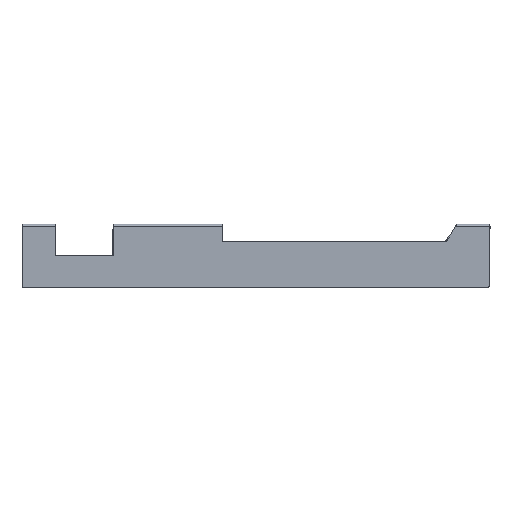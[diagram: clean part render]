
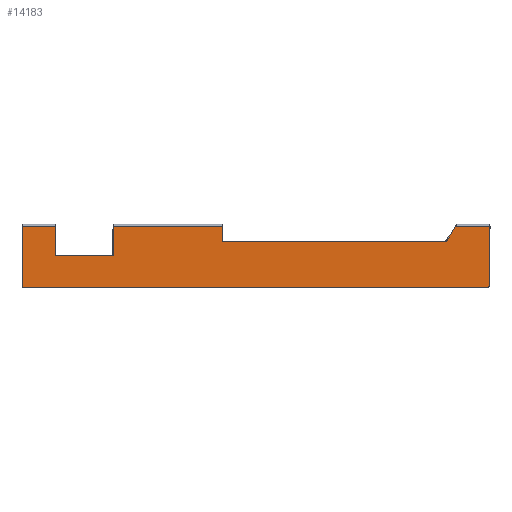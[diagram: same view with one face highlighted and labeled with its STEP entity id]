
A CAD part, left-side view. The second image highlights one B-rep face of the part: STEP entity #14183.
In plain terms, the highlighted planar face has unit normal (-1, 0, 0).
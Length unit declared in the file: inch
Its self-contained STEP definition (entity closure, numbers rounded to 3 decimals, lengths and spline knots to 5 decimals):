
#337 = CARTESIAN_POINT ( 'NONE',  ( -5.95, 29.6, 2.9 ) ) ;
#411 = CARTESIAN_POINT ( 'NONE',  ( -5.95, 2.8, 2.96 ) ) ;
#893 = ORIENTED_EDGE ( 'NONE', *, *, #18924, .T. ) ;
#914 = CARTESIAN_POINT ( 'NONE',  ( -5.95, 16.84, 2.9 ) ) ;
#939 = ORIENTED_EDGE ( 'NONE', *, *, #2724, .T. ) ;
#961 = EDGE_CURVE ( 'NONE', #16135, #4200, #19131, .T. ) ;
#1057 = DIRECTION ( 'NONE',  ( 1., 0., 0. ) ) ;
#1084 = DIRECTION ( 'NONE',  ( 0., -1., 0. ) ) ;
#1267 = CARTESIAN_POINT ( 'NONE',  ( -5.95, 29.6, 3.8653 ) ) ;
#1278 = DIRECTION ( 'NONE',  ( 0., 1., 0. ) ) ;
#1740 = VERTEX_POINT ( 'NONE', #18730 ) ;
#1763 = CIRCLE ( 'NONE', #9722, 0.125 ) ;
#1785 = DIRECTION ( 'NONE',  ( 0., 0.518, -0.855 ) ) ;
#1959 = CARTESIAN_POINT ( 'NONE',  ( -5.95, 0., 3.8653 ) ) ;
#2092 = VERTEX_POINT ( 'NONE', #9407 ) ;
#2458 = EDGE_CURVE ( 'NONE', #14696, #15120, #12641, .T. ) ;
#2582 = EDGE_CURVE ( 'NONE', #6665, #14501, #19598, .T. ) ;
#2637 = LINE ( 'NONE', #13466, #13736 ) ;
#2679 = CARTESIAN_POINT ( 'NONE',  ( -5.95, 23.8, 0. ) ) ;
#2724 = EDGE_CURVE ( 'NONE', #20918, #14728, #8135, .T. ) ;
#2876 = CARTESIAN_POINT ( 'NONE',  ( -5.95, 27.5, 2.125 ) ) ;
#3316 = CARTESIAN_POINT ( 'NONE',  ( -5.95, 2.8, 2.9 ) ) ;
#3844 = CIRCLE ( 'NONE', #5183, 0.06 ) ;
#4127 = VECTOR ( 'NONE', #11602, 39.37008 ) ;
#4135 = LINE ( 'NONE', #19500, #12579 ) ;
#4140 = DIRECTION ( 'NONE',  ( 0., 0., 1. ) ) ;
#4200 = VERTEX_POINT ( 'NONE', #1959 ) ;
#4222 = ORIENTED_EDGE ( 'NONE', *, *, #16245, .T. ) ;
#4325 = CARTESIAN_POINT ( 'NONE',  ( -5.95, 23.925, 2. ) ) ;
#4581 = CARTESIAN_POINT ( 'NONE',  ( -5.95, 29.6, 0. ) ) ;
#4683 = DIRECTION ( 'NONE',  ( 1., 0., 0. ) ) ;
#4788 = VERTEX_POINT ( 'NONE', #10575 ) ;
#4933 = CIRCLE ( 'NONE', #16862, 0.1875 ) ;
#4967 = ORIENTED_EDGE ( 'NONE', *, *, #14666, .T. ) ;
#5092 = CARTESIAN_POINT ( 'NONE',  ( -5.95, 16.9, 0. ) ) ;
#5183 = AXIS2_PLACEMENT_3D ( 'NONE', #411, #17524, #14099 ) ;
#5341 = CARTESIAN_POINT ( 'NONE',  ( -5.95, 23.8, 2.125 ) ) ;
#5449 = LINE ( 'NONE', #6250, #12764 ) ;
#5486 = VERTEX_POINT ( 'NONE', #18117 ) ;
#5585 = CARTESIAN_POINT ( 'NONE',  ( -5.95, 27.5, 3.8653 ) ) ;
#5960 = DIRECTION ( 'NONE',  ( 1., 0., 0. ) ) ;
#6045 = DIRECTION ( 'NONE',  ( 1., 0., 0. ) ) ;
#6136 = DIRECTION ( 'NONE',  ( 0., -1., 0. ) ) ;
#6250 = CARTESIAN_POINT ( 'NONE',  ( -5.95, 29.6, 3.8653 ) ) ;
#6369 = DIRECTION ( 'NONE',  ( 0., 0., -1. ) ) ;
#6665 = VERTEX_POINT ( 'NONE', #8666 ) ;
#6800 = ORIENTED_EDGE ( 'NONE', *, *, #18323, .F. ) ;
#7107 = DIRECTION ( 'NONE',  ( 0., 0., -1. ) ) ;
#7235 = LINE ( 'NONE', #9219, #20235 ) ;
#8135 = CIRCLE ( 'NONE', #18534, 0.125 ) ;
#8181 = EDGE_CURVE ( 'NONE', #16690, #6665, #7235, .T. ) ;
#8227 = VERTEX_POINT ( 'NONE', #2876 ) ;
#8346 = VERTEX_POINT ( 'NONE', #15007 ) ;
#8562 = AXIS2_PLACEMENT_3D ( 'NONE', #4581, #6045, #9354 ) ;
#8666 = CARTESIAN_POINT ( 'NONE',  ( -5.95, 29.6, 3.8653 ) ) ;
#8685 = EDGE_CURVE ( 'NONE', #5486, #8346, #4933, .T. ) ;
#8816 = EDGE_CURVE ( 'NONE', #2092, #1740, #5449, .T. ) ;
#8865 = FACE_OUTER_BOUND ( 'NONE', #10768, .T. ) ;
#9219 = CARTESIAN_POINT ( 'NONE',  ( -5.95, 29.6, 3.9253 ) ) ;
#9354 = DIRECTION ( 'NONE',  ( 0., 0., -1. ) ) ;
#9392 = CARTESIAN_POINT ( 'NONE',  ( -5.95, 27.375, 2.125 ) ) ;
#9407 = CARTESIAN_POINT ( 'NONE',  ( -5.95, 23.8, 3.8653 ) ) ;
#9464 = ORIENTED_EDGE ( 'NONE', *, *, #14520, .F. ) ;
#9677 = CARTESIAN_POINT ( 'NONE',  ( -5.95, 23.925, 2.125 ) ) ;
#9722 = AXIS2_PLACEMENT_3D ( 'NONE', #9392, #1057, #10935 ) ;
#9909 = VECTOR ( 'NONE', #1785, 39.37008 ) ;
#10031 = VECTOR ( 'NONE', #20456, 39.37008 ) ;
#10058 = DIRECTION ( 'NONE',  ( 0., 0., -1. ) ) ;
#10059 = CARTESIAN_POINT ( 'NONE',  ( -5.95, 2.18158, 3.8653 ) ) ;
#10307 = VECTOR ( 'NONE', #6136, 39.37008 ) ;
#10354 = EDGE_CURVE ( 'NONE', #14728, #4788, #17163, .T. ) ;
#10575 = CARTESIAN_POINT ( 'NONE',  ( -5.95, 27.375, 2. ) ) ;
#10768 = EDGE_LOOP ( 'NONE', ( #21444, #19634, #16458, #4222, #9464, #893, #17446, #14700, #12151, #4967, #939, #13331, #15250, #6800, #14741, #12998, #17845 ) ) ;
#10935 = DIRECTION ( 'NONE',  ( 0., 0., -1. ) ) ;
#11087 = LINE ( 'NONE', #337, #10031 ) ;
#11386 = CARTESIAN_POINT ( 'NONE',  ( -5.95, 2.74868, 2.92892 ) ) ;
#11602 = DIRECTION ( 'NONE',  ( 0., 1., 0. ) ) ;
#11886 = DIRECTION ( 'NONE',  ( 0., 0., 1. ) ) ;
#12151 = ORIENTED_EDGE ( 'NONE', *, *, #8816, .F. ) ;
#12579 = VECTOR ( 'NONE', #4140, 39.37008 ) ;
#12641 = CIRCLE ( 'NONE', #17813, 0.06 ) ;
#12755 = CARTESIAN_POINT ( 'NONE',  ( -5.95, 0.1875, 0.1875 ) ) ;
#12764 = VECTOR ( 'NONE', #1084, 39.37008 ) ;
#12998 = ORIENTED_EDGE ( 'NONE', *, *, #8181, .F. ) ;
#13091 = LINE ( 'NONE', #5092, #20542 ) ;
#13331 = ORIENTED_EDGE ( 'NONE', *, *, #10354, .T. ) ;
#13466 = CARTESIAN_POINT ( 'NONE',  ( -5.95, 27.5, 0. ) ) ;
#13736 = VECTOR ( 'NONE', #10058, 39.37008 ) ;
#13976 = VECTOR ( 'NONE', #20397, 39.37008 ) ;
#14099 = DIRECTION ( 'NONE',  ( 0., 0., -1. ) ) ;
#14183 = ADVANCED_FACE ( 'NONE', ( #8865 ), #14710, .F. ) ;
#14479 = DIRECTION ( 'NONE',  ( 0., 0., 1. ) ) ;
#14501 = VERTEX_POINT ( 'NONE', #5585 ) ;
#14520 = EDGE_CURVE ( 'NONE', #15450, #18686, #3844, .T. ) ;
#14666 = EDGE_CURVE ( 'NONE', #2092, #20918, #17606, .T. ) ;
#14696 = VERTEX_POINT ( 'NONE', #914 ) ;
#14700 = ORIENTED_EDGE ( 'NONE', *, *, #17486, .T. ) ;
#14710 = PLANE ( 'NONE',  #8562 ) ;
#14728 = VERTEX_POINT ( 'NONE', #4325 ) ;
#14741 = ORIENTED_EDGE ( 'NONE', *, *, #2582, .F. ) ;
#15007 = CARTESIAN_POINT ( 'NONE',  ( -5.95, 0.1875, 0. ) ) ;
#15120 = VERTEX_POINT ( 'NONE', #17798 ) ;
#15250 = ORIENTED_EDGE ( 'NONE', *, *, #15922, .T. ) ;
#15450 = VERTEX_POINT ( 'NONE', #3316 ) ;
#15917 = CARTESIAN_POINT ( 'NONE',  ( -5.95, 29.6, 0. ) ) ;
#15922 = EDGE_CURVE ( 'NONE', #4788, #8227, #1763, .T. ) ;
#15947 = DIRECTION ( 'NONE',  ( 0., 0., 1. ) ) ;
#16135 = VERTEX_POINT ( 'NONE', #10059 ) ;
#16245 = EDGE_CURVE ( 'NONE', #16135, #18686, #19226, .T. ) ;
#16458 = ORIENTED_EDGE ( 'NONE', *, *, #961, .F. ) ;
#16547 = VECTOR ( 'NONE', #19629, 39.37008 ) ;
#16690 = VERTEX_POINT ( 'NONE', #15917 ) ;
#16862 = AXIS2_PLACEMENT_3D ( 'NONE', #12755, #5960, #14479 ) ;
#17056 = EDGE_CURVE ( 'NONE', #5486, #4200, #4135, .T. ) ;
#17163 = LINE ( 'NONE', #18184, #20625 ) ;
#17251 = DIRECTION ( 'NONE',  ( 1., 0., 0. ) ) ;
#17446 = ORIENTED_EDGE ( 'NONE', *, *, #2458, .T. ) ;
#17486 = EDGE_CURVE ( 'NONE', #15120, #1740, #13091, .T. ) ;
#17524 = DIRECTION ( 'NONE',  ( -1., 0., 0. ) ) ;
#17606 = LINE ( 'NONE', #2679, #16547 ) ;
#17798 = CARTESIAN_POINT ( 'NONE',  ( -5.95, 16.9, 2.96 ) ) ;
#17813 = AXIS2_PLACEMENT_3D ( 'NONE', #20825, #17251, #7107 ) ;
#17845 = ORIENTED_EDGE ( 'NONE', *, *, #20225, .F. ) ;
#17913 = LINE ( 'NONE', #21857, #4127 ) ;
#18117 = CARTESIAN_POINT ( 'NONE',  ( -5.95, 0., 0.1875 ) ) ;
#18184 = CARTESIAN_POINT ( 'NONE',  ( -5.95, 0., 2. ) ) ;
#18323 = EDGE_CURVE ( 'NONE', #14501, #8227, #2637, .T. ) ;
#18534 = AXIS2_PLACEMENT_3D ( 'NONE', #9677, #4683, #6369 ) ;
#18686 = VERTEX_POINT ( 'NONE', #11386 ) ;
#18730 = CARTESIAN_POINT ( 'NONE',  ( -5.95, 16.9, 3.8653 ) ) ;
#18924 = EDGE_CURVE ( 'NONE', #15450, #14696, #11087, .T. ) ;
#19131 = LINE ( 'NONE', #1267, #10307 ) ;
#19226 = LINE ( 'NONE', #20700, #9909 ) ;
#19500 = CARTESIAN_POINT ( 'NONE',  ( -5.95, 0., 3.8653 ) ) ;
#19598 = LINE ( 'NONE', #22020, #13976 ) ;
#19629 = DIRECTION ( 'NONE',  ( 0., 0., -1. ) ) ;
#19634 = ORIENTED_EDGE ( 'NONE', *, *, #17056, .T. ) ;
#20225 = EDGE_CURVE ( 'NONE', #8346, #16690, #17913, .T. ) ;
#20235 = VECTOR ( 'NONE', #15947, 39.37008 ) ;
#20397 = DIRECTION ( 'NONE',  ( 0., -1., 0. ) ) ;
#20456 = DIRECTION ( 'NONE',  ( 0., 1., 0. ) ) ;
#20542 = VECTOR ( 'NONE', #11886, 39.37008 ) ;
#20625 = VECTOR ( 'NONE', #1278, 39.37008 ) ;
#20700 = CARTESIAN_POINT ( 'NONE',  ( -5.95, 11.25223, -11.11194 ) ) ;
#20825 = CARTESIAN_POINT ( 'NONE',  ( -5.95, 16.84, 2.96 ) ) ;
#20918 = VERTEX_POINT ( 'NONE', #5341 ) ;
#21444 = ORIENTED_EDGE ( 'NONE', *, *, #8685, .F. ) ;
#21857 = CARTESIAN_POINT ( 'NONE',  ( -5.95, 29.6, 0. ) ) ;
#22020 = CARTESIAN_POINT ( 'NONE',  ( -5.95, 29.6, 3.8653 ) ) ;
